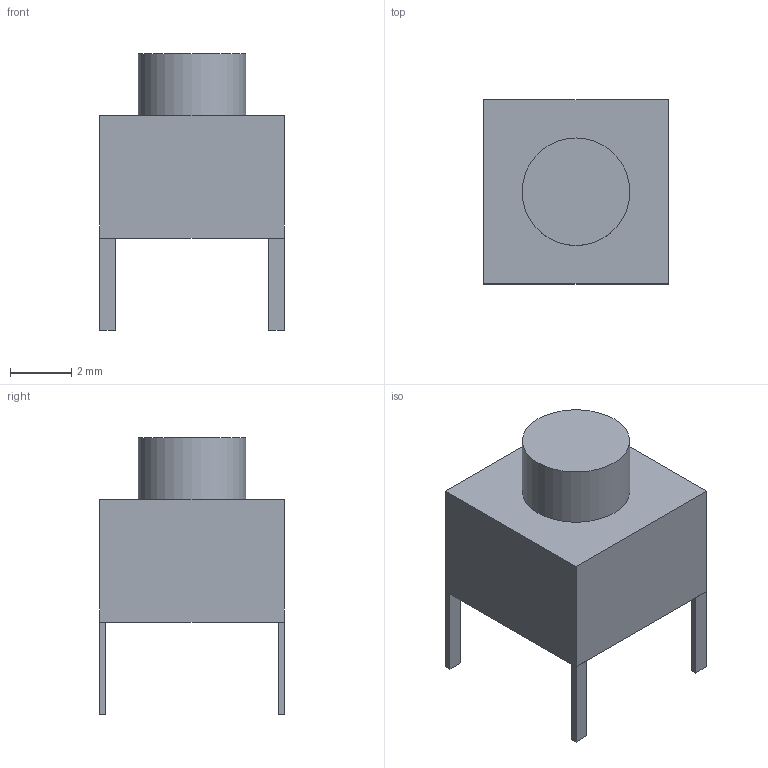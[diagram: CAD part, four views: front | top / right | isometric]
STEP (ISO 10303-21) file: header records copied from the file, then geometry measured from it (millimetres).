
FILE_DESCRIPTION(('FreeCAD Model'),'2;1');
FILE_NAME('Open CASCADE Shape Model','2023-05-06T18:44:57',('Author'),( ''),'Open CASCADE STEP processor 7.5','FreeCAD','Unknown');
FILE_SCHEMA(('AUTOMOTIVE_DESIGN { 1 0 10303 214 1 1 1 1 }'));
Length unit declared in the file: millimetre
Products named in the file (1): button_664
Bounding box: 6 x 6 x 9 mm (x, y, z)
Volume: 164.4 mm3; surface area: 207.6 mm2
Topology: 5 solids, 5 shells, 32 faces, 63 edges, 42 vertices
Faces by surface type: plane 31, cylinder 1
Full cylindrical faces by diameter (mm): 3.5 x1
Entity records: 1215 total; most frequent: CARTESIAN_POINT 137, DIRECTION 130, ORIENTED_EDGE 124, EDGE_CURVE 62, VECTOR 60, LINE 60, VERTEX_POINT 42, UNCERTAINTY_MEASURE_WITH_UNIT 38
